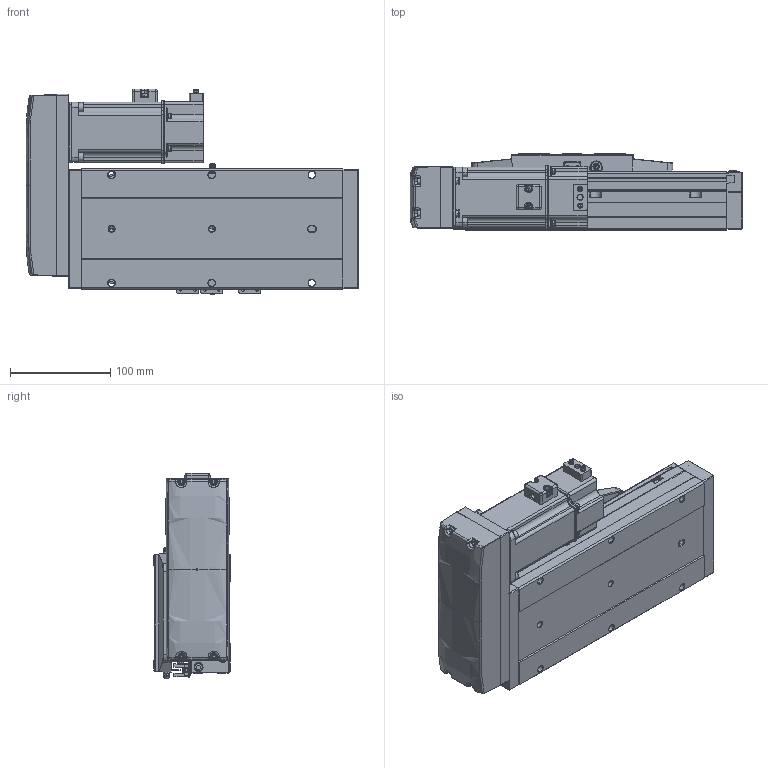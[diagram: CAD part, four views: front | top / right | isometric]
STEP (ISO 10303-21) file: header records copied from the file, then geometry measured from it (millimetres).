
FILE_DESCRIPTION (( 'STEP AP214' ), '1' );
FILE_NAME ('CTH12-L10-S50-BL-C40（简）.STEP', '2023-02-06T05:09:05', ( '' ), ( '' ), 'SwSTEP 2.0', 'SolidWorks 2018', '' );
FILE_SCHEMA (( 'AUTOMOTIVE_DESIGN' ));
Length unit declared in the file: millimetre
Products named in the file (24): 内六角圆柱头螺钉M3-1; M5蹟隊; CTH12覜茼え; 嫖萇羲壽郪磁2; CTH12賑怢郪磁; 内六角圆柱头螺钉M3; 400W萇儂; 嫖萇羲壽郪磁1; CTH12; hex nuts, style 1-grades ab gb_GB_FASTENER_NUT_SNAB1 M3-N; CTH400W垫板（3个厚）; CTH嫖萇羲壽假蚾啣; 湮賑怢  裔赽-1(CTH12)賑怢; CTH12-BL_body_4; 蚐郲; CTH12耜蚾裔; 内六角圆柱头螺钉M3-2; CTH12_body_3; CTH12菁釱-L261潠; CTH400W假蚾啣; CTH12侧装连接板（标准）简; PM-Y45; CTH12賑怢ㄗ潠ㄘ; CTH12-L10-S50-BL-C40（简）
Assembly tree (44 placements, depth 4):
  CTH12-L10-S50-BL-C40（简）
    CTH12_body_3
    蚐郲  x2
    CTH12-BL_body_4
    CTH12侧装连接板（标准）简
    CTH12耜蚾裔
    CTH12賑怢郪磁
      CTH12
        湮賑怢  裔赽-1(CTH12)賑怢
        CTH12賑怢ㄗ潠ㄘ
    CTH12菁釱-L261潠
    CTH12覜茼え
    CTH400W垫板（3个厚）
    400W萇儂
    内六角圆柱头螺钉M3  x6
    M5蹟隊  x4
    嫖萇羲壽郪磁1
      CTH嫖萇羲壽假蚾啣
      PM-Y45
      内六角圆柱头螺钉M3-2  x2
      内六角圆柱头螺钉M3-1  x2
      hex nuts, style 1-grades ab gb_GB_FASTENER_NUT_SNAB1 M3-N  x2
    嫖萇羲壽郪磁2  x2
      CTH嫖萇羲壽假蚾啣
      PM-Y45
      内六角圆柱头螺钉M3-1
      内六角圆柱头螺钉M3-2
      hex nuts, style 1-grades ab gb_GB_FASTENER_NUT_SNAB1 M3-N
    CTH400W假蚾啣
Bounding box: 331.5 x 76 x 205.26 mm (x, y, z)
Volume: 2556213.9 mm3; surface area: 440421.3 mm2
Topology: 47 solids, 48 shells, 2993 faces, 7446 edges, 4675 vertices
Faces by surface type: plane 1466, cylinder 872, cone 355, bspline 172, torus 124, sphere 4
Entity records: 97730 total; most frequent: CARTESIAN_POINT 36802, ORIENTED_EDGE 11994, DIRECTION 11279, EDGE_CURVE 5997, AXIS2_PLACEMENT_3D 3944, VERTEX_POINT 3779, LINE 3391, VECTOR 3391
